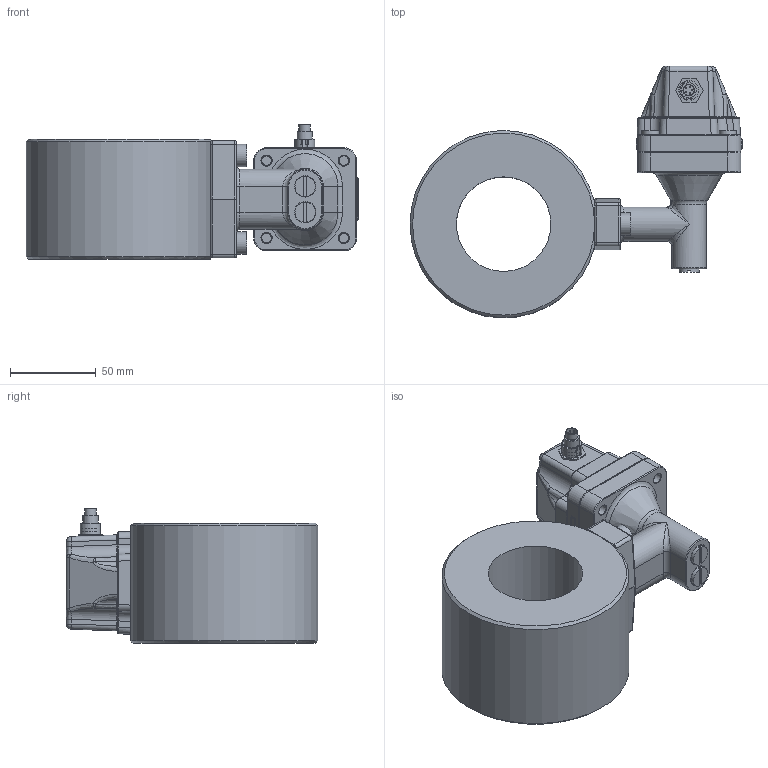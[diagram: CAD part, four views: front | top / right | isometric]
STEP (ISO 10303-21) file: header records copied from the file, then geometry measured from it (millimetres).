
FILE_DESCRIPTION(/* description */ ('Alibre Inc.'),/* implementation_level */ '2;1');
FILE_NAME(/* name */ 'export0',/* time_stamp */ '2012-11-14T15:43:28+01:00',/* author */ (''),/* organization */ (''),/* preprocessor_version */ 'ST-DEVELOPER v14',/* originating_system */ 'Alibre',/* authorisation */ '');
FILE_SCHEMA (('CONFIG_CONTROL_DESIGN'));
Length unit declared in the file: centimetre
Products named in the file (9): ID_1; ID_2; ID_3; ID_4; ID_5; ID_6; ID_7
Bounding box: 193.25 x 146.47 x 78.5 mm (x, y, z)
Volume: 655625.5 mm3; surface area: 113802 mm2
Topology: 13 solids, 14 shells, 843 faces, 1839 edges, 1060 vertices
Faces by surface type: plane 268, cylinder 261, bspline 132, cone 92, torus 52, sphere 38
Full cylindrical faces by diameter (mm): 0.75 x5, 3.198 x4, 6 x16, 6.2 x1, 6.4 x4, 6.7 x1, 8 x4, 8.5 x2, 8.7 x2, 8.9 x1, 9.6 x4, 10 x4, 11 x4, 11.75 x2, 12 x2, 13 x2, 14 x2, 17.2 x2, 21.1 x2, 32 x1, 47 x1, 55 x1
Entity records: 45174 total; most frequent: CARTESIAN_POINT 29426, ORIENTED_EDGE 2978, DIRECTION 2907, EDGE_CURVE 1489, AXIS2_PLACEMENT_3D 1307, VERTEX_POINT 911, EDGE_LOOP 892, FACE_BOUND 892
